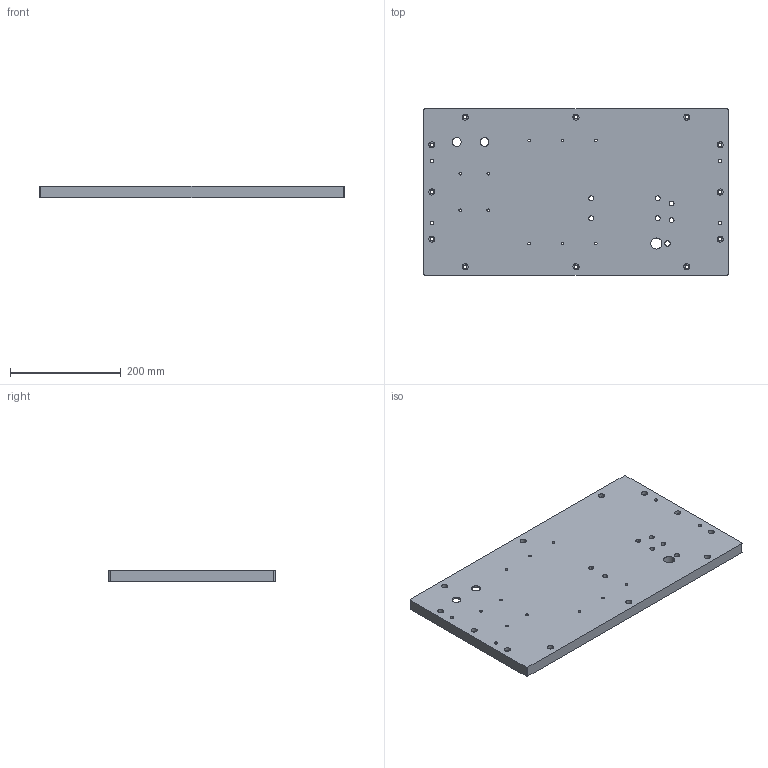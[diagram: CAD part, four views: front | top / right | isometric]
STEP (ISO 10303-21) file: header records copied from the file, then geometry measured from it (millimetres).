
FILE_DESCRIPTION(('CATIA V5 STEP Exchange'),'2;1');
FILE_NAME('D:\姚明阳\1、工装图纸\AGZ131\AGZ131.01_V2.stp','2025-06-28T07:43:24+00:00',('none'),('none'),'CATIA Version 5 Release 21 GA (IN-10)','CATIA V5 STEP AP214','none');
FILE_SCHEMA(('AUTOMOTIVE_DESIGN { 1 0 10303 214 1 1 1 1 }'));
Length unit declared in the file: millimetre
Products named in the file (1): AGZ131.01_V2
Bounding box: 550 x 300 x 20 mm (x, y, z)
Volume: 3143108.5 mm3; surface area: 383717.6 mm2
Topology: 1 solids, 1 shells, 157 faces, 396 edges, 264 vertices
Faces by surface type: cylinder 124, plane 33
Entity records: 4398 total; most frequent: ORIENTED_EDGE 792, CARTESIAN_POINT 742, DIRECTION 558, EDGE_CURVE 396, AXIS2_PLACEMENT_3D 330, VERTEX_POINT 264, EDGE_LOOP 252, CIRCLE 248
